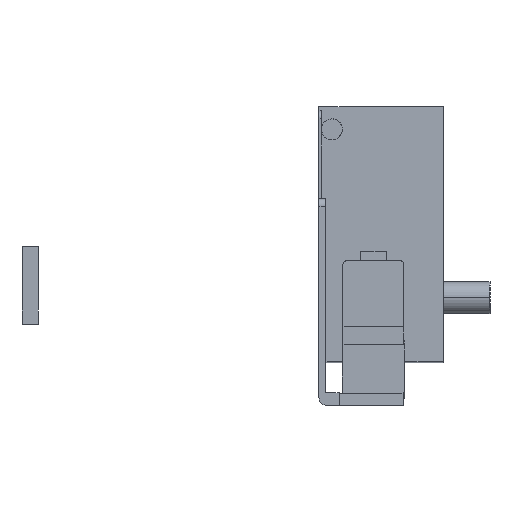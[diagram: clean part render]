
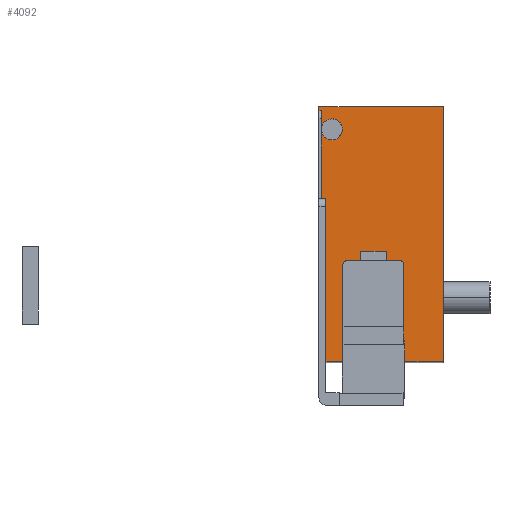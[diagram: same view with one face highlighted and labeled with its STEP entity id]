
A CAD part, front view. The second image highlights one B-rep face of the part: STEP entity #4092.
In plain terms, the highlighted planar face has unit normal (0, -1, 0.007).
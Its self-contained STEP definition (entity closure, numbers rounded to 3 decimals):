
#85 = EDGE_CURVE ( 'NONE', #4751, #5085, #3400, .T. ) ;
#91 = EDGE_CURVE ( 'NONE', #4838, #4810, #3409, .T. ) ;
#314 = EDGE_CURVE ( 'NONE', #5023, #5085, #3780, .T. ) ;
#315 = EDGE_CURVE ( 'NONE', #4810, #4759, #3782, .T. ) ;
#317 = EDGE_CURVE ( 'NONE', #4906, #4838, #3784, .T. ) ;
#318 = EDGE_CURVE ( 'NONE', #4751, #4969, #3786, .T. ) ;
#319 = EDGE_CURVE ( 'NONE', #5070, #4945, #3788, .T. ) ;
#320 = EDGE_CURVE ( 'NONE', #4906, #4945, #3790, .T. ) ;
#360 = EDGE_CURVE ( 'NONE', #5023, #4759, #3860, .T. ) ;
#391 = EDGE_CURVE ( 'NONE', #4969, #5070, #3920, .T. ) ;
#576 = AXIS2_PLACEMENT_3D ( 'NONE', #1014, #1015, #1016 ) ;
#577 = AXIS2_PLACEMENT_3D ( 'NONE', #1017, #1018, #1019 ) ;
#704 = AXIS2_PLACEMENT_3D ( 'NONE', #1729, #1730, #1731 ) ;
#1014 = CARTESIAN_POINT ( 'NONE',  ( 25.75, 270.845, -31.613 ) ) ;
#1015 = DIRECTION ( 'NONE',  ( 0., 1., -0.007 ) ) ;
#1016 = DIRECTION ( 'NONE',  ( 0., 0.007, 1. ) ) ;
#1017 = CARTESIAN_POINT ( 'NONE',  ( 8.25, 270.845, -31.613 ) ) ;
#1018 = DIRECTION ( 'NONE',  ( 0., 1., -0.007 ) ) ;
#1019 = DIRECTION ( 'NONE',  ( 0., 0.007, 1. ) ) ;
#1022 = CARTESIAN_POINT ( 'NONE',  ( 7.25, 270.816, -35.896 ) ) ;
#1023 = DIRECTION ( 'NONE',  ( 1., 0., 0. ) ) ;
#1024 = CARTESIAN_POINT ( 'NONE',  ( 38.8, 270.816, -35.896 ) ) ;
#1025 = DIRECTION ( 'NONE',  ( 1., 0., 0. ) ) ;
#1026 = CARTESIAN_POINT ( 'NONE',  ( 38.8, 271.348, 43.542 ) ) ;
#1027 = DIRECTION ( 'NONE',  ( -1., 0., 0. ) ) ;
#1028 = CARTESIAN_POINT ( 'NONE',  ( 0., 270.749, -45.813 ) ) ;
#1029 = DIRECTION ( 'NONE',  ( 0., 0.007, 1. ) ) ;
#1118 = CARTESIAN_POINT ( 'NONE',  ( 26.75, 270.851, -30.613 ) ) ;
#1119 = DIRECTION ( 'NONE',  ( -1., 0., 0. ) ) ;
#1182 = CARTESIAN_POINT ( 'NONE',  ( 38.8, 270.749, -45.813 ) ) ;
#1183 = DIRECTION ( 'NONE',  ( 0., 0.007, 1. ) ) ;
#1728 = PLANE ( 'NONE',  #704 ) ;
#1729 = CARTESIAN_POINT ( 'NONE',  ( 38.8, 270.749, -45.813 ) ) ;
#1730 = DIRECTION ( 'NONE',  ( 0., -1., 0.007 ) ) ;
#1731 = DIRECTION ( 'NONE',  ( 0., 0.007, 1. ) ) ;
#2013 = CARTESIAN_POINT ( 'NONE',  ( 26.75, 270.816, -35.896 ) ) ;
#2018 = CARTESIAN_POINT ( 'NONE',  ( 8.25, 270.851, -30.613 ) ) ;
#2046 = CARTESIAN_POINT ( 'NONE',  ( 7.25, 270.845, -31.613 ) ) ;
#2065 = CARTESIAN_POINT ( 'NONE',  ( 7.25, 270.816, -35.896 ) ) ;
#2077 = CARTESIAN_POINT ( 'NONE',  ( 0., 270.816, -35.896 ) ) ;
#2116 = CARTESIAN_POINT ( 'NONE',  ( 0., 271.348, 43.542 ) ) ;
#2140 = CARTESIAN_POINT ( 'NONE',  ( 38.8, 270.816, -35.896 ) ) ;
#2194 = CARTESIAN_POINT ( 'NONE',  ( 25.75, 270.851, -30.613 ) ) ;
#2241 = CARTESIAN_POINT ( 'NONE',  ( 38.8, 271.348, 43.542 ) ) ;
#2256 = CARTESIAN_POINT ( 'NONE',  ( 26.75, 270.845, -31.613 ) ) ;
#2489 = FACE_OUTER_BOUND ( 'NONE', #3189, .T. ) ;
#3105 = ORIENTED_EDGE ( 'NONE', *, *, #317, .T. ) ;
#3106 = ORIENTED_EDGE ( 'NONE', *, *, #91, .T. ) ;
#3107 = ORIENTED_EDGE ( 'NONE', *, *, #315, .T. ) ;
#3108 = ORIENTED_EDGE ( 'NONE', *, *, #360, .F. ) ;
#3109 = ORIENTED_EDGE ( 'NONE', *, *, #314, .T. ) ;
#3110 = ORIENTED_EDGE ( 'NONE', *, *, #85, .F. ) ;
#3111 = ORIENTED_EDGE ( 'NONE', *, *, #318, .T. ) ;
#3112 = ORIENTED_EDGE ( 'NONE', *, *, #391, .T. ) ;
#3113 = ORIENTED_EDGE ( 'NONE', *, *, #319, .T. ) ;
#3114 = ORIENTED_EDGE ( 'NONE', *, *, #320, .F. ) ;
#3189 = EDGE_LOOP ( 'NONE', ( #3105, #3106, #3107, #3108, #3109, #3110, #3111, #3112, #3113, #3114 ) ) ;
#3400 = LINE ( 'NONE', #4867, #3401 ) ;
#3401 = VECTOR ( 'NONE', #4866, 1000. ) ;
#3409 = LINE ( 'NONE', #4853, #3411 ) ;
#3411 = VECTOR ( 'NONE', #4852, 1000. ) ;
#3780 = CIRCLE ( 'NONE', #576, 1. ) ;
#3782 = CIRCLE ( 'NONE', #577, 1. ) ;
#3784 = LINE ( 'NONE', #1022, #3785 ) ;
#3785 = VECTOR ( 'NONE', #1023, 1000. ) ;
#3786 = LINE ( 'NONE', #1024, #3787 ) ;
#3787 = VECTOR ( 'NONE', #1025, 1000. ) ;
#3788 = LINE ( 'NONE', #1026, #3789 ) ;
#3789 = VECTOR ( 'NONE', #1027, 1000. ) ;
#3790 = LINE ( 'NONE', #1028, #3791 ) ;
#3791 = VECTOR ( 'NONE', #1029, 1000. ) ;
#3860 = LINE ( 'NONE', #1118, #3861 ) ;
#3861 = VECTOR ( 'NONE', #1119, 1000. ) ;
#3920 = LINE ( 'NONE', #1182, #3921 ) ;
#3921 = VECTOR ( 'NONE', #1183, 1000. ) ;
#4092 = ADVANCED_FACE ( 'NONE', ( #2489 ), #1728, .T. ) ;
#4751 = VERTEX_POINT ( 'NONE', #2013 ) ;
#4759 = VERTEX_POINT ( 'NONE', #2018 ) ;
#4810 = VERTEX_POINT ( 'NONE', #2046 ) ;
#4838 = VERTEX_POINT ( 'NONE', #2065 ) ;
#4852 = DIRECTION ( 'NONE',  ( 0., 0.007, 1. ) ) ;
#4853 = CARTESIAN_POINT ( 'NONE',  ( 7.25, 270.951, -15.768 ) ) ;
#4866 = DIRECTION ( 'NONE',  ( 0., 0.007, 1. ) ) ;
#4867 = CARTESIAN_POINT ( 'NONE',  ( 26.75, 270.951, -15.768 ) ) ;
#4906 = VERTEX_POINT ( 'NONE', #2077 ) ;
#4945 = VERTEX_POINT ( 'NONE', #2116 ) ;
#4969 = VERTEX_POINT ( 'NONE', #2140 ) ;
#5023 = VERTEX_POINT ( 'NONE', #2194 ) ;
#5070 = VERTEX_POINT ( 'NONE', #2241 ) ;
#5085 = VERTEX_POINT ( 'NONE', #2256 ) ;
